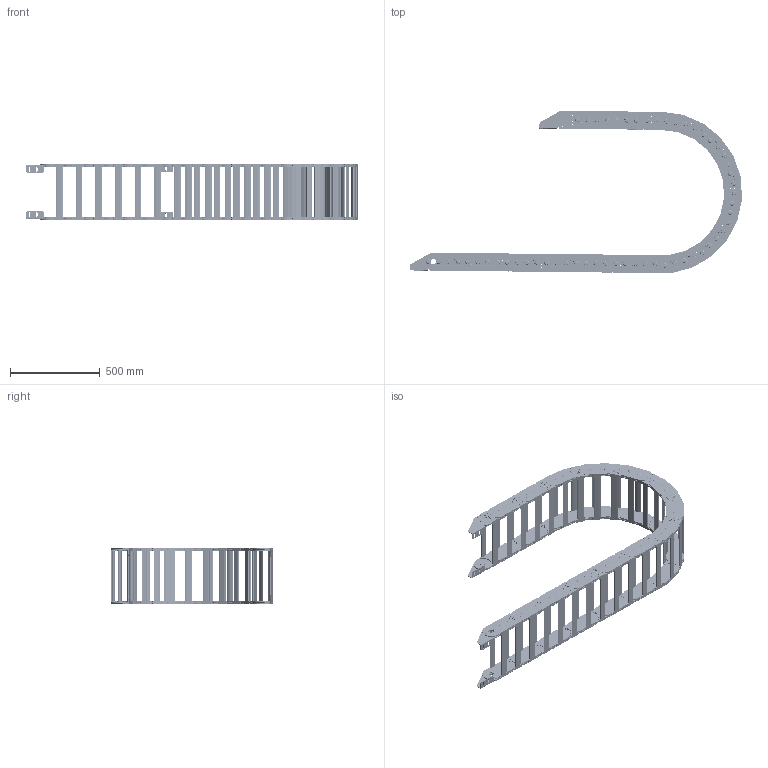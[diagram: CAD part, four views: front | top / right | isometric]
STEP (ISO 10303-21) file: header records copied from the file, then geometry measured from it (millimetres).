
FILE_DESCRIPTION((''),'2;1');
FILE_NAME('80GD-75-R400_ASM','2022-07-31T16:38:57',('admin'),(''),'CREO PARAMETRIC BY PTC INC, 2021164','CREO PARAMETRIC BY PTC INC, 2021164','');
FILE_SCHEMA(('CONFIG_CONTROL_DESIGN','GEOMETRIC_VALIDATION_PROPERTIES_MIM'));
Length unit declared in the file: millimetre
Products named in the file (5): 80-A; 80-B; 80-LTT; 80-LTT-2; 80GD-75-R400_ASM
Assembly tree (30 placements, depth 2):
  80GD-75-R400_ASM
    80-A  x14
    80-B  x14
    80-LTT
    80-LTT-2
Bounding box: 1853.26 x 905.86 x 315.6 mm (x, y, z)
Volume: 16019818 mm3; surface area: 4920192.6 mm2
Topology: 116 solids, 116 shells, 4920 faces, 13326 edges, 9034 vertices
Faces by surface type: cylinder 2172, plane 1964, torus 560, cone 224
Entity records: 21477 total; most frequent: DIRECTION 3098, CARTESIAN_POINT 2862, ORIENTED_EDGE 2732, EDGE_CURVE 1366, AXIS2_PLACEMENT_3D 1197, PRESENTATION_STYLE_ASSIGNMENT 1114, STYLED_ITEM 1114, VERTEX_POINT 922
